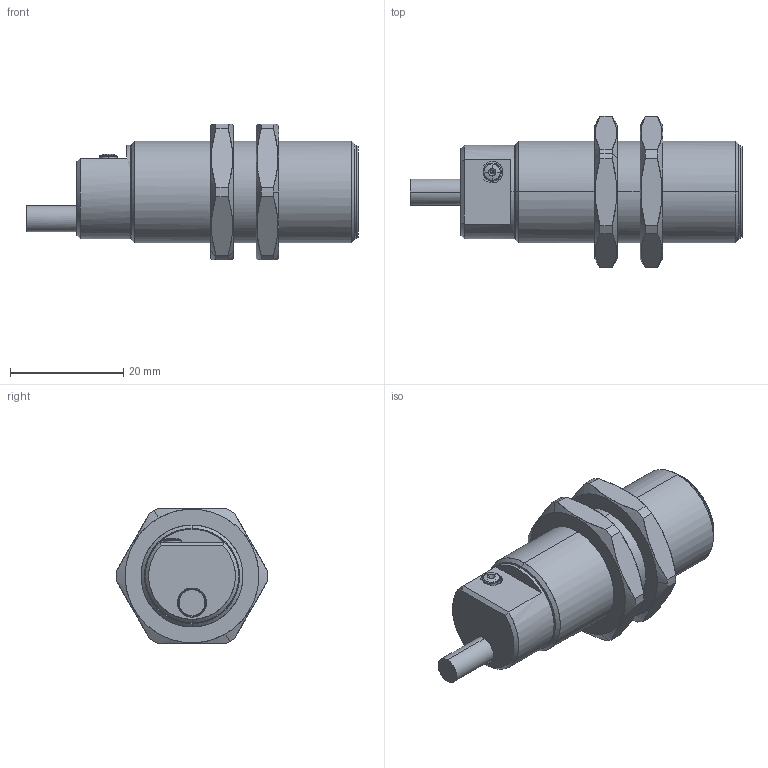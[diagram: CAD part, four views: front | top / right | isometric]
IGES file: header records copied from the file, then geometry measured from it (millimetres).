
Start section: Comment
Global section: file name: FxAM 18_Kabel_50_Teach.igs; native system:  By Spatial Corp.; preprocessor: XPlus GENERIC/IGES 3.0; author: Author; organization: Title; date: 20040804.173316; units: inch
Bounding box: 58.6 x 26.8 x 24 mm (x, y, z)
Surface area: 5459.8 mm2 (no closed solid volume)
Topology: 0 solids, 0 shells, 121 faces, 560 edges, 556 vertices
Faces by surface type: bspline 121
